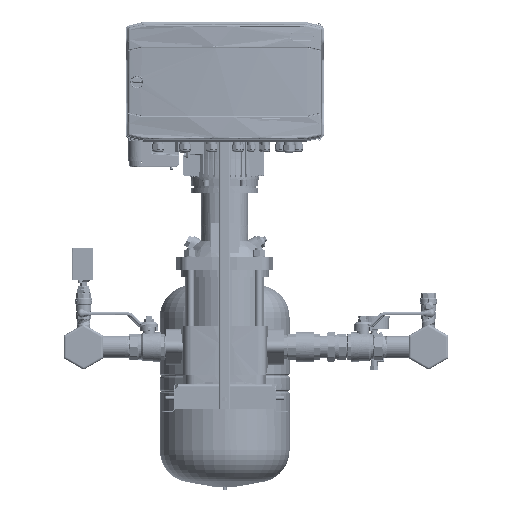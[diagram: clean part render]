
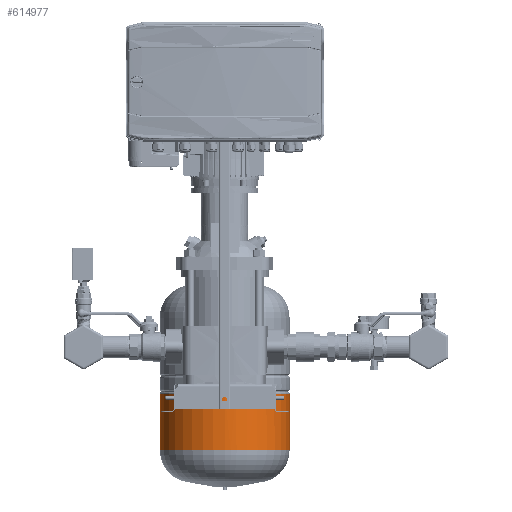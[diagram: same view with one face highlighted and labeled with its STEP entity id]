
A CAD part, left-side view. The second image highlights one B-rep face of the part: STEP entity #614977.
In plain terms, the highlighted cylindrical face has radius 140 mm (diameter 280 mm), a partial arc.
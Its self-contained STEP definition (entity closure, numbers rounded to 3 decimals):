
#608086=CARTESIAN_POINT('Vertex',(-140.,0.,-20.533)) ;
#608089=CARTESIAN_POINT('Axis2P3D Location',(0.,0.,-20.533)) ;
#608093=CARTESIAN_POINT('Vertex',(0.,-140.,-20.533)) ;
#608148=CARTESIAN_POINT('Vertex',(0.,140.,-20.533)) ;
#608151=CARTESIAN_POINT('Axis2P3D Location',(0.,0.,-20.533)) ;
#614892=CARTESIAN_POINT('Axis2P3D Location',(0.,0.,-85.867)) ;
#614897=CARTESIAN_POINT('Line Origine',(0.,140.,-85.867)) ;
#614901=CARTESIAN_POINT('Vertex',(0.,140.,-142.492)) ;
#614904=CARTESIAN_POINT('Line Origine',(0.,-140.,-85.867)) ;
#614908=CARTESIAN_POINT('Vertex',(0.,-140.,-142.492)) ;
#614946=CARTESIAN_POINT('Control Point',(-140.,0.,-142.492)) ;
#614947=CARTESIAN_POINT('Control Point',(-140.,21.991,-142.492)) ;
#614948=CARTESIAN_POINT('Control Point',(-135.682,43.982,-142.492)) ;
#614949=CARTESIAN_POINT('Control Point',(-127.042,64.842,-142.492)) ;
#614950=CARTESIAN_POINT('Control Point',(-102.048,102.048,-142.492)) ;
#614951=CARTESIAN_POINT('Control Point',(-64.842,127.042,-142.492)) ;
#614952=CARTESIAN_POINT('Control Point',(-43.982,135.682,-142.492)) ;
#614953=CARTESIAN_POINT('Control Point',(-21.991,140.,-142.492)) ;
#614954=CARTESIAN_POINT('Control Point',(0.,140.,-142.492)) ;
#614955=CARTESIAN_POINT('Vertex',(-140.,0.,-142.492)) ;
#614959=CARTESIAN_POINT('Control Point',(0.,-140.,-142.492)) ;
#614960=CARTESIAN_POINT('Control Point',(-21.991,-140.,-142.492)) ;
#614961=CARTESIAN_POINT('Control Point',(-43.982,-135.682,-142.492)) ;
#614962=CARTESIAN_POINT('Control Point',(-64.842,-127.042,-142.492)) ;
#614963=CARTESIAN_POINT('Control Point',(-102.048,-102.048,-142.492)) ;
#614964=CARTESIAN_POINT('Control Point',(-127.042,-64.842,-142.492)) ;
#614965=CARTESIAN_POINT('Control Point',(-135.682,-43.982,-142.492)) ;
#614966=CARTESIAN_POINT('Control Point',(-140.,-21.991,-142.492)) ;
#614967=CARTESIAN_POINT('Control Point',(-140.,0.,-142.492)) ;
#614899=VECTOR('Line Direction',#614898,1.) ;
#614906=VECTOR('Line Direction',#614905,1.) ;
#608090=DIRECTION('Axis2P3D Direction',(0.,0.,-1.)) ;
#608152=DIRECTION('Axis2P3D Direction',(0.,0.,-1.)) ;
#614893=DIRECTION('Axis2P3D Direction',(0.,0.,-1.)) ;
#614894=DIRECTION('Axis2P3D XDirection',(0.,-1.,0.)) ;
#614898=DIRECTION('Vector Direction',(0.,0.,-1.)) ;
#614905=DIRECTION('Vector Direction',(0.,0.,-1.)) ;
#608091=AXIS2_PLACEMENT_3D('Circle Axis2P3D',#608089,#608090,$) ;
#608153=AXIS2_PLACEMENT_3D('Circle Axis2P3D',#608151,#608152,$) ;
#614895=AXIS2_PLACEMENT_3D('Cylinder Axis2P3D',#614892,#614893,#614894) ;
#614900=LINE('Line',#614897,#614899) ;
#614907=LINE('Line',#614904,#614906) ;
#608092=CIRCLE('generated circle',#608091,140.) ;
#608154=CIRCLE('generated circle',#608153,140.) ;
#614896=CYLINDRICAL_SURFACE('generated cylinder',#614895,140.) ;
#608095=EDGE_CURVE('',#608087,#608094,#608092,.F.) ;
#608155=EDGE_CURVE('',#608149,#608087,#608154,.F.) ;
#614903=EDGE_CURVE('',#608149,#614902,#614900,.T.) ;
#614910=EDGE_CURVE('',#614909,#608094,#614907,.F.) ;
#614957=EDGE_CURVE('',#614956,#614902,#614945,.T.) ;
#614968=EDGE_CURVE('',#614909,#614956,#614958,.T.) ;
#614970=ORIENTED_EDGE('',*,*,#614910,.T.) ;
#614971=ORIENTED_EDGE('',*,*,#608095,.F.) ;
#614972=ORIENTED_EDGE('',*,*,#608155,.F.) ;
#614973=ORIENTED_EDGE('',*,*,#614903,.T.) ;
#614974=ORIENTED_EDGE('',*,*,#614957,.F.) ;
#614975=ORIENTED_EDGE('',*,*,#614968,.F.) ;
#614969=EDGE_LOOP('',(#614970,#614971,#614972,#614973,#614974,#614975)) ;
#608087=VERTEX_POINT('',#608086) ;
#608094=VERTEX_POINT('',#608093) ;
#608149=VERTEX_POINT('',#608148) ;
#614902=VERTEX_POINT('',#614901) ;
#614909=VERTEX_POINT('',#614908) ;
#614956=VERTEX_POINT('',#614955) ;
#614977=ADVANCED_FACE('MANIFOLD_SOLID_BREP #40',(#614976),#614896,.T.) ;
#614945=B_SPLINE_CURVE_WITH_KNOTS('',5,(#614946,#614947,#614948,#614949,#614950,#614951,#614952,#614953,#614954),.UNSPECIFIED.,.F.,.U.,(6,3,6),(0.,109.956,219.911),.UNSPECIFIED.) ;
#614958=B_SPLINE_CURVE_WITH_KNOTS('',5,(#614959,#614960,#614961,#614962,#614963,#614964,#614965,#614966,#614967),.UNSPECIFIED.,.F.,.U.,(6,3,6),(-219.911,-109.956,0.),.UNSPECIFIED.) ;
#614976=FACE_OUTER_BOUND('',#614969,.T.) ;
